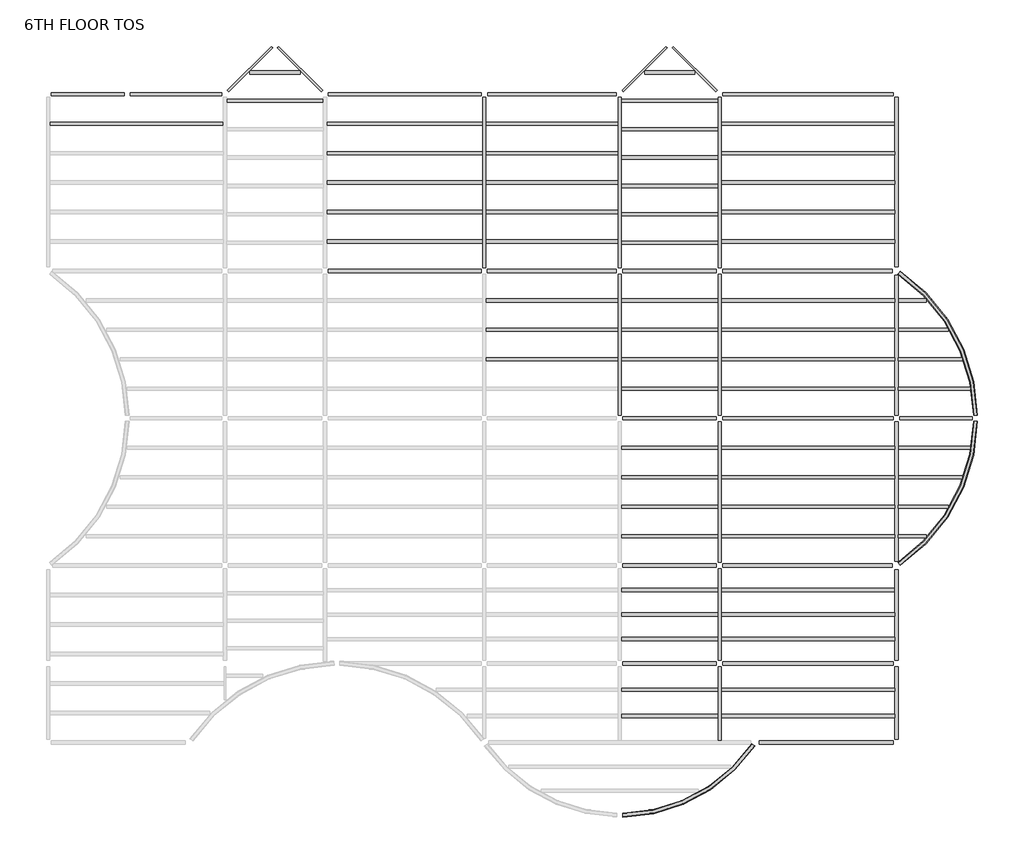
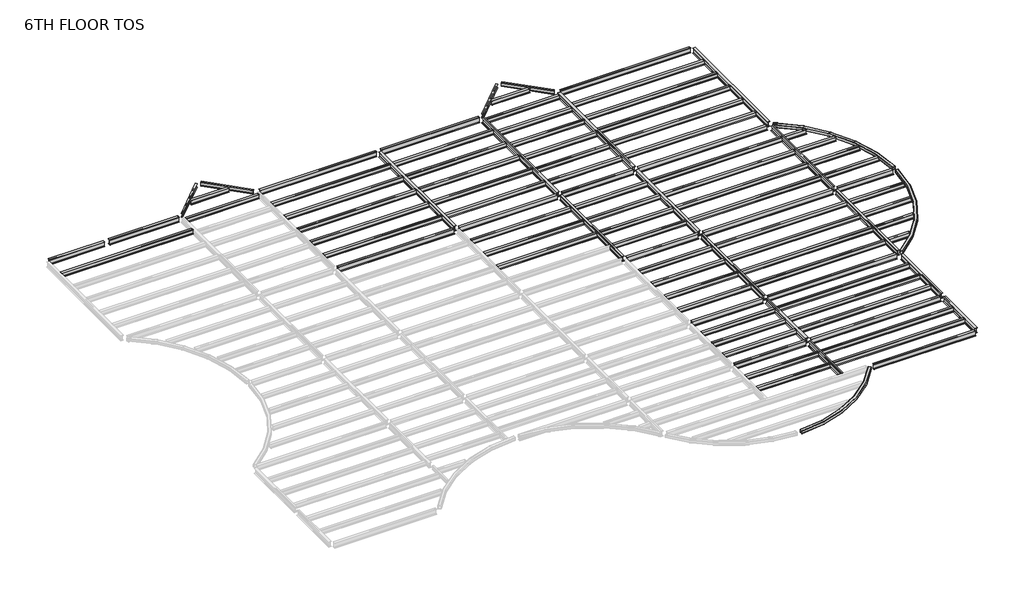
# One storey, part 2 of 2: 99 beams.
"""IFC4 building model written with IfcOpenShell, lengths in millimetres."""

from ifc_helpers import new_model, si_unit, origin, place, context, project, spatial, transform, mapped, element, save
from components import m_hss_square_hss203_2x203_2x9_5_28e91a4e, m_hss_square_hss203_2x203_2x9_5_f31329aa, m_hss_square_hss203_2x203_2x9_5_63507dff, ub_universal_beams_ub254x102x28_7812688d, ub_universal_beams_ub254x102x28_4a38c177, ub_universal_beams_ub305x165x40_c4d0385b, ub_universal_beams_ub305x165x40_19965e16, ub_universal_beams_ub305x165x40_d3abc31d, ub_universal_beams_ub305x165x40_0c73730f, ub_universal_beams_ub305x165x40_2a963f0c, ub_universal_beams_ub305x165x40_9ce7f2ee, ub_universal_beams_ub305x165x40_d184adfd, ub_universal_beams_ub305x165x40_bc7dc938, ub_universal_beams_ub305x165x40_b4233d25, ub_universal_beams_ub356x171x51_c708c058, ub_universal_beams_ub356x171x51_ef72dcdd, ub_universal_beams_ub356x171x51_10b3c54f, ub_universal_beams_ub356x171x51_4c9fd821, ub_universal_beams_ub356x171x51_d1a87c3c, ub_universal_beams_ub356x171x51_fa75724b, ub_universal_beams_ub356x171x51_68db896e, ub_universal_beams_ub356x171x51_c634c4a6, ub_universal_beams_ub356x171x51_995f1560, ub_universal_beams_ub356x171x51_dfc36663, ub_universal_beams_ub356x171x51_11d6b780, ub_universal_beams_ub356x171x51_76b2d20b, ub_universal_beams_ub356x171x51_145ecd4b, ub_universal_beams_ub356x171x51_c7dff8d2, ub_universal_beams_ub356x171x51_8a345439, ub_universal_beams_ub356x171x51_6da510e9, ub_universal_beams_ub356x171x51_e97f8d2e, ub_universal_beams_ub356x171x51_a38b99de, ub_universal_beams_ub356x171x51_d8f4cdde, ub_universal_beams_ub356x171x51_475301e6, ub_universal_beams_ub356x171x51_c03c70fb, ub_universal_beams_ub356x171x51_741bae58

model = new_model("IFC4")

# Units and contexts
model_context = context("Model", 3, world=origin())
ifc_project = project(units=[si_unit("LENGTHUNIT", "METRE", prefix="MILLI")], contexts=[model_context])

# Site, building, storey
site = spatial("IfcSite", under=ifc_project)
building = spatial("IfcBuilding", under=site)
storey = spatial("IfcBuildingStorey", under=building, Name="6TH FLOOR TOS", Elevation=27279.6)

# Beams
placement = place(None, origin())
m_hss_square_hss203_2x203_2x9_5_shape = m_hss_square_hss203_2x203_2x9_5_28e91a4e(model_context)
element("IfcBeam", 1, ObjectType="M_HSS Square : HSS203.2X203.2X9.5", at=placement, inside=storey, context=model_context, shape_type="MappedRepresentation", body=[
    mapped(m_hss_square_hss203_2x203_2x9_5_shape, transform((44027.575, 24539.575, 27178.1), x_axis=(0.8332810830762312, -0.5528495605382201, 0.0), y_axis=(0.5528495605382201, 0.8332810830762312, 0.0), z_axis=(0.0, 0.0, 1.0))),
])
m_hss_square_hss203_2x203_2x9_5_2_shape = m_hss_square_hss203_2x203_2x9_5_f31329aa(model_context)
element("IfcBeam", 2, ObjectType="M_HSS Square : HSS203.2X203.2X9.5", at=placement, inside=storey, context=model_context, shape_type="MappedRepresentation", body=[
    mapped(m_hss_square_hss203_2x203_2x9_5_2_shape, transform((44027.575, 9299.575, 27178.1), x_axis=(0.8332810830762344, 0.5528495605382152, 0.0), y_axis=(-0.5528495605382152, 0.8332810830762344, 0.0), z_axis=(0.0, 0.0, 1.0))),
])
m_hss_square_hss203_2x203_2x9_5_3_shape = m_hss_square_hss203_2x203_2x9_5_63507dff(model_context)
element("IfcBeam", 3, ObjectType="M_HSS Square : HSS203.2X203.2X9.5", at=placement, inside=storey, context=model_context, shape_type="MappedRepresentation", body=[
    mapped(m_hss_square_hss203_2x203_2x9_5_3_shape, transform((36716.575, 155.575, 27178.1), x_axis=(-0.5530174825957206, -0.8331696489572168, 0.0), y_axis=(0.8331696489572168, -0.5530174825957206, 0.0), z_axis=(0.0, 0.0, 1.0))),
])
ub_universal_beams_ub254x102x28_shape = ub_universal_beams_ub254x102x28_7812688d(model_context)
element("IfcBeam", 4, ObjectType="UB-Universal Beams : UB254x102x28", at=placement, inside=storey, context=model_context, shape_type="MappedRepresentation", body=[
    mapped(ub_universal_beams_ub254x102x28_shape, transform((10592.575, 34976.575, 27149.4), x_axis=(0.7071067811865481, 0.7071067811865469, 0.0), y_axis=(-0.7071067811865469, 0.7071067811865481, 0.0), z_axis=(0.0, 0.0, 1.0))),
])
element("IfcBeam", 5, ObjectType="UB-Universal Beams : UB254x102x28", at=placement, inside=storey, context=model_context, shape_type="MappedRepresentation", body=[
    mapped(ub_universal_beams_ub254x102x28_shape, transform((31004.575, 34976.575, 27149.4), x_axis=(0.7071067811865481, 0.7071067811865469, 0.0), y_axis=(-0.7071067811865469, 0.7071067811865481, 0.0), z_axis=(0.0, 0.0, 1.0))),
])
ub_universal_beams_ub254x102x28_2_shape = ub_universal_beams_ub254x102x28_4a38c177(model_context)
element("IfcBeam", 6, ObjectType="UB-Universal Beams : UB254x102x28", at=placement, inside=storey, context=model_context, shape_type="MappedRepresentation", body=[
    mapped(ub_universal_beams_ub254x102x28_2_shape, transform((13178.575, 34976.575, 27149.4), x_axis=(0.707106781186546, -0.707106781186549, 0.0), y_axis=(0.707106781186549, 0.707106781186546, 0.0), z_axis=(0.0, 0.0, 1.0))),
])
element("IfcBeam", 7, ObjectType="UB-Universal Beams : UB254x102x28", at=placement, inside=storey, context=model_context, shape_type="MappedRepresentation", body=[
    mapped(ub_universal_beams_ub254x102x28_2_shape, transform((33590.575, 34976.575, 27149.4), x_axis=(0.7071067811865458, -0.7071067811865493, 0.0), y_axis=(0.7071067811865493, 0.7071067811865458, 0.0), z_axis=(0.0, 0.0, 1.0))),
])
ub_universal_beams_ub305x165x40_shape = ub_universal_beams_ub305x165x40_c4d0385b(model_context)
element("IfcBeam", 8, ObjectType="UB-Universal Beams : UB305x165x40", at=placement, inside=storey, context=model_context, shape_type="MappedRepresentation", body=[
    mapped(ub_universal_beams_ub305x165x40_shape, transform((4727.575, 32159.575, 27127.9), x_axis=(1.0, 0.0, 0.0), y_axis=(0.0, 1.0, 0.0), z_axis=(0.0, 0.0, 1.0))),
])
element("IfcBeam", 9, ObjectType="UB-Universal Beams : UB305x165x40", at=placement, inside=storey, context=model_context, shape_type="MappedRepresentation", body=[
    mapped(ub_universal_beams_ub305x165x40_shape, transform((39455.575, 32159.575, 27127.9), x_axis=(1.0, 0.0, 0.0), y_axis=(0.0, 1.0, 0.0), z_axis=(0.0, 0.0, 1.0))),
])
element("IfcBeam", 10, ObjectType="UB-Universal Beams : UB305x165x40", at=placement, inside=storey, context=model_context, shape_type="MappedRepresentation", body=[
    mapped(ub_universal_beams_ub305x165x40_shape, transform((39455.575, 30635.575, 27127.9), x_axis=(1.0, 0.0, 0.0), y_axis=(0.0, 1.0, 0.0), z_axis=(0.0, 0.0, 1.0))),
])
element("IfcBeam", 11, ObjectType="UB-Universal Beams : UB305x165x40", at=placement, inside=storey, context=model_context, shape_type="MappedRepresentation", body=[
    mapped(ub_universal_beams_ub305x165x40_shape, transform((39455.575, 29111.575, 27127.9), x_axis=(1.0, 0.0, 0.0), y_axis=(0.0, 1.0, 0.0), z_axis=(0.0, 0.0, 1.0))),
])
element("IfcBeam", 12, ObjectType="UB-Universal Beams : UB305x165x40", at=placement, inside=storey, context=model_context, shape_type="MappedRepresentation", body=[
    mapped(ub_universal_beams_ub305x165x40_shape, transform((39455.575, 27587.575, 27127.9), x_axis=(1.0, 0.0, 0.0), y_axis=(0.0, 1.0, 0.0), z_axis=(0.0, 0.0, 1.0))),
])
element("IfcBeam", 13, ObjectType="UB-Universal Beams : UB305x165x40", at=placement, inside=storey, context=model_context, shape_type="MappedRepresentation", body=[
    mapped(ub_universal_beams_ub305x165x40_shape, transform((39455.575, 26063.575, 27127.9), x_axis=(1.0, 0.0, 0.0), y_axis=(0.0, 1.0, 0.0), z_axis=(0.0, 0.0, 1.0))),
])
element("IfcBeam", 14, ObjectType="UB-Universal Beams : UB305x165x40", at=placement, inside=storey, context=model_context, shape_type="MappedRepresentation", body=[
    mapped(ub_universal_beams_ub305x165x40_shape, transform((39455.575, 23015.575, 27127.9), x_axis=(1.0, 0.0, 0.0), y_axis=(0.0, 1.0, 0.0), z_axis=(0.0, 0.0, 1.0))),
])
element("IfcBeam", 15, ObjectType="UB-Universal Beams : UB305x165x40", at=placement, inside=storey, context=model_context, shape_type="MappedRepresentation", body=[
    mapped(ub_universal_beams_ub305x165x40_shape, transform((39455.575, 21491.575, 27127.9), x_axis=(1.0, 0.0, 0.0), y_axis=(0.0, 1.0, 0.0), z_axis=(0.0, 0.0, 1.0))),
])
element("IfcBeam", 16, ObjectType="UB-Universal Beams : UB305x165x40", at=placement, inside=storey, context=model_context, shape_type="MappedRepresentation", body=[
    mapped(ub_universal_beams_ub305x165x40_shape, transform((39455.575, 19967.575, 27127.9), x_axis=(1.0, 0.0, 0.0), y_axis=(0.0, 1.0, 0.0), z_axis=(0.0, 0.0, 1.0))),
])
element("IfcBeam", 17, ObjectType="UB-Universal Beams : UB305x165x40", at=placement, inside=storey, context=model_context, shape_type="MappedRepresentation", body=[
    mapped(ub_universal_beams_ub305x165x40_shape, transform((39455.575, 18443.575, 27127.9), x_axis=(1.0, 0.0, 0.0), y_axis=(0.0, 1.0, 0.0), z_axis=(0.0, 0.0, 1.0))),
])
element("IfcBeam", 18, ObjectType="UB-Universal Beams : UB305x165x40", at=placement, inside=storey, context=model_context, shape_type="MappedRepresentation", body=[
    mapped(ub_universal_beams_ub305x165x40_shape, transform((39455.575, 15395.575, 27127.9), x_axis=(1.0, 0.0, 0.0), y_axis=(0.0, 1.0, 0.0), z_axis=(0.0, 0.0, 1.0))),
])
element("IfcBeam", 19, ObjectType="UB-Universal Beams : UB305x165x40", at=placement, inside=storey, context=model_context, shape_type="MappedRepresentation", body=[
    mapped(ub_universal_beams_ub305x165x40_shape, transform((39455.575, 13871.575, 27127.9), x_axis=(1.0, 0.0, 0.0), y_axis=(0.0, 1.0, 0.0), z_axis=(0.0, 0.0, 1.0))),
])
element("IfcBeam", 20, ObjectType="UB-Universal Beams : UB305x165x40", at=placement, inside=storey, context=model_context, shape_type="MappedRepresentation", body=[
    mapped(ub_universal_beams_ub305x165x40_shape, transform((39455.575, 12347.575, 27127.9), x_axis=(1.0, 0.0, 0.0), y_axis=(0.0, 1.0, 0.0), z_axis=(0.0, 0.0, 1.0))),
])
element("IfcBeam", 21, ObjectType="UB-Universal Beams : UB305x165x40", at=placement, inside=storey, context=model_context, shape_type="MappedRepresentation", body=[
    mapped(ub_universal_beams_ub305x165x40_shape, transform((39455.575, 10823.575, 27127.9), x_axis=(1.0, 0.0, 0.0), y_axis=(0.0, 1.0, 0.0), z_axis=(0.0, 0.0, 1.0))),
])
element("IfcBeam", 22, ObjectType="UB-Universal Beams : UB305x165x40", at=placement, inside=storey, context=model_context, shape_type="MappedRepresentation", body=[
    mapped(ub_universal_beams_ub305x165x40_shape, transform((39455.575, 5508.325, 27127.9), x_axis=(-1.0, 0.0, 0.0), y_axis=(0.0, -1.0, 0.0), z_axis=(0.0, 0.0, 1.0))),
])
element("IfcBeam", 23, ObjectType="UB-Universal Beams : UB305x165x40", at=placement, inside=storey, context=model_context, shape_type="MappedRepresentation", body=[
    mapped(ub_universal_beams_ub305x165x40_shape, transform((39455.575, 6772.075, 27127.9), x_axis=(-1.0, 0.0, 0.0), y_axis=(0.0, -1.0, 0.0), z_axis=(0.0, 0.0, 1.0))),
])
element("IfcBeam", 24, ObjectType="UB-Universal Beams : UB305x165x40", at=placement, inside=storey, context=model_context, shape_type="MappedRepresentation", body=[
    mapped(ub_universal_beams_ub305x165x40_shape, transform((39455.575, 8035.825, 27127.9), x_axis=(-1.0, 0.0, 0.0), y_axis=(0.0, -1.0, 0.0), z_axis=(0.0, 0.0, 1.0))),
])
element("IfcBeam", 25, ObjectType="UB-Universal Beams : UB305x165x40", at=placement, inside=storey, context=model_context, shape_type="MappedRepresentation", body=[
    mapped(ub_universal_beams_ub305x165x40_shape, transform((39455.575, 1518.575, 27127.9), x_axis=(-1.0, 0.0, 0.0), y_axis=(0.0, -1.0, 0.0), z_axis=(0.0, 0.0, 1.0))),
])
element("IfcBeam", 26, ObjectType="UB-Universal Beams : UB305x165x40", at=placement, inside=storey, context=model_context, shape_type="MappedRepresentation", body=[
    mapped(ub_universal_beams_ub305x165x40_shape, transform((39455.575, 2881.575, 27127.9), x_axis=(-1.0, 0.0, 0.0), y_axis=(0.0, -1.0, 0.0), z_axis=(0.0, 0.0, 1.0))),
])
ub_universal_beams_ub305x165x40_2_shape = ub_universal_beams_ub305x165x40_19965e16(model_context)
element("IfcBeam", 27, ObjectType="UB-Universal Beams : UB305x165x40", at=placement, inside=storey, context=model_context, shape_type="MappedRepresentation", body=[
    mapped(ub_universal_beams_ub305x165x40_2_shape, transform((11885.575, 34803.325, 27127.9), x_axis=(1.0, 0.0, 0.0), y_axis=(0.0, 1.0, 0.0), z_axis=(0.0, 0.0, 1.0))),
])
element("IfcBeam", 28, ObjectType="UB-Universal Beams : UB305x165x40", at=placement, inside=storey, context=model_context, shape_type="MappedRepresentation", body=[
    mapped(ub_universal_beams_ub305x165x40_2_shape, transform((32297.575, 34803.325, 27127.9), x_axis=(1.0, 0.0, 0.0), y_axis=(0.0, 1.0, 0.0), z_axis=(0.0, 0.0, 1.0))),
])
ub_universal_beams_ub305x165x40_3_shape = ub_universal_beams_ub305x165x40_d3abc31d(model_context)
element("IfcBeam", 29, ObjectType="UB-Universal Beams : UB305x165x40", at=placement, inside=storey, context=model_context, shape_type="MappedRepresentation", body=[
    mapped(ub_universal_beams_ub305x165x40_3_shape, transform((11885.575, 33337.075, 27127.9), x_axis=(1.0, 0.0, 0.0), y_axis=(0.0, 1.0, 0.0), z_axis=(0.0, 0.0, 1.0))),
])
element("IfcBeam", 30, ObjectType="UB-Universal Beams : UB305x165x40", at=placement, inside=storey, context=model_context, shape_type="MappedRepresentation", body=[
    mapped(ub_universal_beams_ub305x165x40_3_shape, transform((32297.575, 33337.075, 27127.9), x_axis=(1.0, 0.0, 0.0), y_axis=(0.0, 1.0, 0.0), z_axis=(0.0, 0.0, 1.0))),
])
element("IfcBeam", 31, ObjectType="UB-Universal Beams : UB305x165x40", at=placement, inside=storey, context=model_context, shape_type="MappedRepresentation", body=[
    mapped(ub_universal_beams_ub305x165x40_3_shape, transform((32297.575, 31870.825, 27127.9), x_axis=(1.0, 0.0, 0.0), y_axis=(0.0, 1.0, 0.0), z_axis=(0.0, 0.0, 1.0))),
])
element("IfcBeam", 32, ObjectType="UB-Universal Beams : UB305x165x40", at=placement, inside=storey, context=model_context, shape_type="MappedRepresentation", body=[
    mapped(ub_universal_beams_ub305x165x40_3_shape, transform((32297.575, 30404.575, 27127.9), x_axis=(1.0, 0.0, 0.0), y_axis=(0.0, 1.0, 0.0), z_axis=(0.0, 0.0, 1.0))),
])
element("IfcBeam", 33, ObjectType="UB-Universal Beams : UB305x165x40", at=placement, inside=storey, context=model_context, shape_type="MappedRepresentation", body=[
    mapped(ub_universal_beams_ub305x165x40_3_shape, transform((32297.575, 28938.325, 27127.9), x_axis=(1.0, 0.0, 0.0), y_axis=(0.0, 1.0, 0.0), z_axis=(0.0, 0.0, 1.0))),
])
element("IfcBeam", 34, ObjectType="UB-Universal Beams : UB305x165x40", at=placement, inside=storey, context=model_context, shape_type="MappedRepresentation", body=[
    mapped(ub_universal_beams_ub305x165x40_3_shape, transform((32297.575, 27472.075, 27127.9), x_axis=(1.0, 0.0, 0.0), y_axis=(0.0, 1.0, 0.0), z_axis=(0.0, 0.0, 1.0))),
])
element("IfcBeam", 35, ObjectType="UB-Universal Beams : UB305x165x40", at=placement, inside=storey, context=model_context, shape_type="MappedRepresentation", body=[
    mapped(ub_universal_beams_ub305x165x40_3_shape, transform((32297.575, 26005.825, 27127.9), x_axis=(1.0, 0.0, 0.0), y_axis=(0.0, 1.0, 0.0), z_axis=(0.0, 0.0, 1.0))),
])
element("IfcBeam", 36, ObjectType="UB-Universal Beams : UB305x165x40", at=placement, inside=storey, context=model_context, shape_type="MappedRepresentation", body=[
    mapped(ub_universal_beams_ub305x165x40_3_shape, transform((32297.575, 1518.575, 27127.9), x_axis=(-1.0, 0.0, 0.0), y_axis=(0.0, -1.0, 0.0), z_axis=(0.0, 0.0, 1.0))),
])
element("IfcBeam", 37, ObjectType="UB-Universal Beams : UB305x165x40", at=placement, inside=storey, context=model_context, shape_type="MappedRepresentation", body=[
    mapped(ub_universal_beams_ub305x165x40_3_shape, transform((32297.575, 2881.575, 27127.9), x_axis=(-1.0, 0.0, 0.0), y_axis=(0.0, -1.0, 0.0), z_axis=(0.0, 0.0, 1.0))),
])
element("IfcBeam", 38, ObjectType="UB-Universal Beams : UB305x165x40", at=placement, inside=storey, context=model_context, shape_type="MappedRepresentation", body=[
    mapped(ub_universal_beams_ub305x165x40_3_shape, transform((32297.575, 5508.325, 27127.9), x_axis=(-1.0, 0.0, 0.0), y_axis=(0.0, -1.0, 0.0), z_axis=(0.0, 0.0, 1.0))),
])
element("IfcBeam", 39, ObjectType="UB-Universal Beams : UB305x165x40", at=placement, inside=storey, context=model_context, shape_type="MappedRepresentation", body=[
    mapped(ub_universal_beams_ub305x165x40_3_shape, transform((32297.575, 6772.075, 27127.9), x_axis=(-1.0, 0.0, 0.0), y_axis=(0.0, -1.0, 0.0), z_axis=(0.0, 0.0, 1.0))),
])
element("IfcBeam", 40, ObjectType="UB-Universal Beams : UB305x165x40", at=placement, inside=storey, context=model_context, shape_type="MappedRepresentation", body=[
    mapped(ub_universal_beams_ub305x165x40_3_shape, transform((32297.575, 8035.825, 27127.9), x_axis=(-1.0, 0.0, 0.0), y_axis=(0.0, -1.0, 0.0), z_axis=(0.0, 0.0, 1.0))),
])
element("IfcBeam", 41, ObjectType="UB-Universal Beams : UB305x165x40", at=placement, inside=storey, context=model_context, shape_type="MappedRepresentation", body=[
    mapped(ub_universal_beams_ub305x165x40_3_shape, transform((32297.575, 15395.575, 27127.9), x_axis=(1.0, 0.0, 0.0), y_axis=(0.0, 1.0, 0.0), z_axis=(0.0, 0.0, 1.0))),
])
element("IfcBeam", 42, ObjectType="UB-Universal Beams : UB305x165x40", at=placement, inside=storey, context=model_context, shape_type="MappedRepresentation", body=[
    mapped(ub_universal_beams_ub305x165x40_3_shape, transform((32297.575, 13871.575, 27127.9), x_axis=(1.0, 0.0, 0.0), y_axis=(0.0, 1.0, 0.0), z_axis=(0.0, 0.0, 1.0))),
])
element("IfcBeam", 43, ObjectType="UB-Universal Beams : UB305x165x40", at=placement, inside=storey, context=model_context, shape_type="MappedRepresentation", body=[
    mapped(ub_universal_beams_ub305x165x40_3_shape, transform((32297.575, 12347.575, 27127.9), x_axis=(1.0, 0.0, 0.0), y_axis=(0.0, 1.0, 0.0), z_axis=(0.0, 0.0, 1.0))),
])
element("IfcBeam", 44, ObjectType="UB-Universal Beams : UB305x165x40", at=placement, inside=storey, context=model_context, shape_type="MappedRepresentation", body=[
    mapped(ub_universal_beams_ub305x165x40_3_shape, transform((32297.575, 10823.575, 27127.9), x_axis=(1.0, 0.0, 0.0), y_axis=(0.0, 1.0, 0.0), z_axis=(0.0, 0.0, 1.0))),
])
element("IfcBeam", 45, ObjectType="UB-Universal Beams : UB305x165x40", at=placement, inside=storey, context=model_context, shape_type="MappedRepresentation", body=[
    mapped(ub_universal_beams_ub305x165x40_3_shape, transform((32297.575, 23015.575, 27127.9), x_axis=(1.0, 0.0, 0.0), y_axis=(0.0, 1.0, 0.0), z_axis=(0.0, 0.0, 1.0))),
])
element("IfcBeam", 46, ObjectType="UB-Universal Beams : UB305x165x40", at=placement, inside=storey, context=model_context, shape_type="MappedRepresentation", body=[
    mapped(ub_universal_beams_ub305x165x40_3_shape, transform((32297.575, 21491.575, 27127.9), x_axis=(1.0, 0.0, 0.0), y_axis=(0.0, 1.0, 0.0), z_axis=(0.0, 0.0, 1.0))),
])
element("IfcBeam", 47, ObjectType="UB-Universal Beams : UB305x165x40", at=placement, inside=storey, context=model_context, shape_type="MappedRepresentation", body=[
    mapped(ub_universal_beams_ub305x165x40_3_shape, transform((32297.575, 19967.575, 27127.9), x_axis=(1.0, 0.0, 0.0), y_axis=(0.0, 1.0, 0.0), z_axis=(0.0, 0.0, 1.0))),
])
element("IfcBeam", 48, ObjectType="UB-Universal Beams : UB305x165x40", at=placement, inside=storey, context=model_context, shape_type="MappedRepresentation", body=[
    mapped(ub_universal_beams_ub305x165x40_3_shape, transform((32297.575, 18443.575, 27127.9), x_axis=(1.0, 0.0, 0.0), y_axis=(0.0, 1.0, 0.0), z_axis=(0.0, 0.0, 1.0))),
])
ub_universal_beams_ub305x165x40_4_shape = ub_universal_beams_ub305x165x40_0c73730f(model_context)
element("IfcBeam", 49, ObjectType="UB-Universal Beams : UB305x165x40", at=placement, inside=storey, context=model_context, shape_type="MappedRepresentation", body=[
    mapped(ub_universal_beams_ub305x165x40_4_shape, transform((18591.075, 32159.575, 27127.9), x_axis=(1.0, 0.0, 0.0), y_axis=(0.0, 1.0, 0.0), z_axis=(0.0, 0.0, 1.0))),
])
element("IfcBeam", 50, ObjectType="UB-Universal Beams : UB305x165x40", at=placement, inside=storey, context=model_context, shape_type="MappedRepresentation", body=[
    mapped(ub_universal_beams_ub305x165x40_4_shape, transform((18591.075, 30635.575, 27127.9), x_axis=(1.0, 0.0, 0.0), y_axis=(0.0, 1.0, 0.0), z_axis=(0.0, 0.0, 1.0))),
])
element("IfcBeam", 51, ObjectType="UB-Universal Beams : UB305x165x40", at=placement, inside=storey, context=model_context, shape_type="MappedRepresentation", body=[
    mapped(ub_universal_beams_ub305x165x40_4_shape, transform((18591.075, 29111.575, 27127.9), x_axis=(1.0, 0.0, 0.0), y_axis=(0.0, 1.0, 0.0), z_axis=(0.0, 0.0, 1.0))),
])
element("IfcBeam", 52, ObjectType="UB-Universal Beams : UB305x165x40", at=placement, inside=storey, context=model_context, shape_type="MappedRepresentation", body=[
    mapped(ub_universal_beams_ub305x165x40_4_shape, transform((18591.075, 27587.575, 27127.9), x_axis=(1.0, 0.0, 0.0), y_axis=(0.0, 1.0, 0.0), z_axis=(0.0, 0.0, 1.0))),
])
element("IfcBeam", 53, ObjectType="UB-Universal Beams : UB305x165x40", at=placement, inside=storey, context=model_context, shape_type="MappedRepresentation", body=[
    mapped(ub_universal_beams_ub305x165x40_4_shape, transform((18591.075, 26063.575, 27127.9), x_axis=(1.0, 0.0, 0.0), y_axis=(0.0, 1.0, 0.0), z_axis=(0.0, 0.0, 1.0))),
])
ub_universal_beams_ub305x165x40_5_shape = ub_universal_beams_ub305x165x40_2a963f0c(model_context)
element("IfcBeam", 54, ObjectType="UB-Universal Beams : UB305x165x40", at=placement, inside=storey, context=model_context, shape_type="MappedRepresentation", body=[
    mapped(ub_universal_beams_ub305x165x40_5_shape, transform((26211.075, 32159.575, 27127.9), x_axis=(1.0, 0.0, 0.0), y_axis=(0.0, 1.0, 0.0), z_axis=(0.0, 0.0, 1.0))),
])
element("IfcBeam", 55, ObjectType="UB-Universal Beams : UB305x165x40", at=placement, inside=storey, context=model_context, shape_type="MappedRepresentation", body=[
    mapped(ub_universal_beams_ub305x165x40_5_shape, transform((26211.075, 30635.575, 27127.9), x_axis=(1.0, 0.0, 0.0), y_axis=(0.0, 1.0, 0.0), z_axis=(0.0, 0.0, 1.0))),
])
element("IfcBeam", 56, ObjectType="UB-Universal Beams : UB305x165x40", at=placement, inside=storey, context=model_context, shape_type="MappedRepresentation", body=[
    mapped(ub_universal_beams_ub305x165x40_5_shape, transform((26211.075, 29111.575, 27127.9), x_axis=(1.0, 0.0, 0.0), y_axis=(0.0, 1.0, 0.0), z_axis=(0.0, 0.0, 1.0))),
])
element("IfcBeam", 57, ObjectType="UB-Universal Beams : UB305x165x40", at=placement, inside=storey, context=model_context, shape_type="MappedRepresentation", body=[
    mapped(ub_universal_beams_ub305x165x40_5_shape, transform((26211.075, 27587.575, 27127.9), x_axis=(1.0, 0.0, 0.0), y_axis=(0.0, 1.0, 0.0), z_axis=(0.0, 0.0, 1.0))),
])
element("IfcBeam", 58, ObjectType="UB-Universal Beams : UB305x165x40", at=placement, inside=storey, context=model_context, shape_type="MappedRepresentation", body=[
    mapped(ub_universal_beams_ub305x165x40_5_shape, transform((26211.075, 26063.575, 27127.9), x_axis=(1.0, 0.0, 0.0), y_axis=(0.0, 1.0, 0.0), z_axis=(0.0, 0.0, 1.0))),
])
element("IfcBeam", 59, ObjectType="UB-Universal Beams : UB305x165x40", at=placement, inside=storey, context=model_context, shape_type="MappedRepresentation", body=[
    mapped(ub_universal_beams_ub305x165x40_5_shape, transform((26211.075, 23015.575, 27127.9), x_axis=(1.0, 0.0, 0.0), y_axis=(0.0, 1.0, 0.0), z_axis=(0.0, 0.0, 1.0))),
])
element("IfcBeam", 60, ObjectType="UB-Universal Beams : UB305x165x40", at=placement, inside=storey, context=model_context, shape_type="MappedRepresentation", body=[
    mapped(ub_universal_beams_ub305x165x40_5_shape, transform((26211.075, 21491.575, 27127.9), x_axis=(1.0, 0.0, 0.0), y_axis=(0.0, 1.0, 0.0), z_axis=(0.0, 0.0, 1.0))),
])
element("IfcBeam", 61, ObjectType="UB-Universal Beams : UB305x165x40", at=placement, inside=storey, context=model_context, shape_type="MappedRepresentation", body=[
    mapped(ub_universal_beams_ub305x165x40_5_shape, transform((26211.075, 19967.575, 27127.9), x_axis=(1.0, 0.0, 0.0), y_axis=(0.0, 1.0, 0.0), z_axis=(0.0, 0.0, 1.0))),
])
ub_universal_beams_ub305x165x40_6_shape = ub_universal_beams_ub305x165x40_9ce7f2ee(model_context)
element("IfcBeam", 62, ObjectType="UB-Universal Beams : UB305x165x40", at=placement, inside=storey, context=model_context, shape_type="MappedRepresentation", body=[
    mapped(ub_universal_beams_ub305x165x40_6_shape, transform((44907.9405309, 23015.575, 27127.9), x_axis=(1.0, 0.0, 0.0), y_axis=(0.0, 1.0, 0.0), z_axis=(0.0, 0.0, 1.0))),
])
element("IfcBeam", 63, ObjectType="UB-Universal Beams : UB305x165x40", at=placement, inside=storey, context=model_context, shape_type="MappedRepresentation", body=[
    mapped(ub_universal_beams_ub305x165x40_6_shape, transform((44907.9405309, 10823.575, 27127.9), x_axis=(1.0, 0.0, 0.0), y_axis=(0.0, 1.0, 0.0), z_axis=(0.0, 0.0, 1.0))),
])
ub_universal_beams_ub305x165x40_7_shape = ub_universal_beams_ub305x165x40_d184adfd(model_context)
element("IfcBeam", 64, ObjectType="UB-Universal Beams : UB305x165x40", at=placement, inside=storey, context=model_context, shape_type="MappedRepresentation", body=[
    mapped(ub_universal_beams_ub305x165x40_7_shape, transform((45459.5874928, 21491.575, 27127.9), x_axis=(1.0, 0.0, 0.0), y_axis=(0.0, 1.0, 0.0), z_axis=(0.0, 0.0, 1.0))),
])
element("IfcBeam", 65, ObjectType="UB-Universal Beams : UB305x165x40", at=placement, inside=storey, context=model_context, shape_type="MappedRepresentation", body=[
    mapped(ub_universal_beams_ub305x165x40_7_shape, transform((45459.5874928, 12347.575, 27127.9), x_axis=(1.0, 0.0, 0.0), y_axis=(0.0, 1.0, 0.0), z_axis=(0.0, 0.0, 1.0))),
])
ub_universal_beams_ub305x165x40_8_shape = ub_universal_beams_ub305x165x40_bc7dc938(model_context)
element("IfcBeam", 66, ObjectType="UB-Universal Beams : UB305x165x40", at=placement, inside=storey, context=model_context, shape_type="MappedRepresentation", body=[
    mapped(ub_universal_beams_ub305x165x40_8_shape, transform((45810.6153272, 19967.575, 27127.9), x_axis=(1.0, 0.0, 0.0), y_axis=(0.0, 1.0, 0.0), z_axis=(0.0, 0.0, 1.0))),
])
element("IfcBeam", 67, ObjectType="UB-Universal Beams : UB305x165x40", at=placement, inside=storey, context=model_context, shape_type="MappedRepresentation", body=[
    mapped(ub_universal_beams_ub305x165x40_8_shape, transform((45810.6153272, 13871.575, 27127.9), x_axis=(1.0, 0.0, 0.0), y_axis=(0.0, 1.0, 0.0), z_axis=(0.0, 0.0, 1.0))),
])
ub_universal_beams_ub305x165x40_9_shape = ub_universal_beams_ub305x165x40_b4233d25(model_context)
element("IfcBeam", 68, ObjectType="UB-Universal Beams : UB305x165x40", at=placement, inside=storey, context=model_context, shape_type="MappedRepresentation", body=[
    mapped(ub_universal_beams_ub305x165x40_9_shape, transform((46008.1318611, 18443.575, 27127.9), x_axis=(1.0, 0.0, 0.0), y_axis=(0.0, 1.0, 0.0), z_axis=(0.0, 0.0, 1.0))),
])
element("IfcBeam", 69, ObjectType="UB-Universal Beams : UB305x165x40", at=placement, inside=storey, context=model_context, shape_type="MappedRepresentation", body=[
    mapped(ub_universal_beams_ub305x165x40_9_shape, transform((46008.1318611, 15395.575, 27127.9), x_axis=(1.0, 0.0, 0.0), y_axis=(0.0, 1.0, 0.0), z_axis=(0.0, 0.0, 1.0))),
])
ub_universal_beams_ub356x171x51_shape = ub_universal_beams_ub356x171x51_c708c058(model_context)
element("IfcBeam", 70, ObjectType="UB-Universal Beams : UB356x171x51", at=placement, inside=storey, context=model_context, shape_type="MappedRepresentation", body=[
    mapped(ub_universal_beams_ub356x171x51_shape, transform((2200.075, 33683.575, 27102.1), x_axis=(1.0, 0.0, 0.0), y_axis=(0.0, 1.0, 0.0), z_axis=(0.0, 0.0, 1.0))),
])
ub_universal_beams_ub356x171x51_2_shape = ub_universal_beams_ub356x171x51_ef72dcdd(model_context)
element("IfcBeam", 71, ObjectType="UB-Universal Beams : UB356x171x51", at=placement, inside=storey, context=model_context, shape_type="MappedRepresentation", body=[
    mapped(ub_universal_beams_ub356x171x51_2_shape, transform((6772.075, 33683.575, 27102.1), x_axis=(1.0, 0.0, 0.0), y_axis=(0.0, 1.0, 0.0), z_axis=(0.0, 0.0, 1.0))),
])
element("IfcBeam", 72, ObjectType="UB-Universal Beams : UB356x171x51", at=placement, inside=storey, context=model_context, shape_type="MappedRepresentation", body=[
    mapped(ub_universal_beams_ub356x171x51_2_shape, transform((34883.575, 6772.075, 27102.1), x_axis=(0.0, -1.0, 0.0), y_axis=(1.0, 0.0, 0.0), z_axis=(0.0, 0.0, 1.0))),
])
ub_universal_beams_ub356x171x51_3_shape = ub_universal_beams_ub356x171x51_10b3c54f(model_context)
element("IfcBeam", 73, ObjectType="UB-Universal Beams : UB356x171x51", at=placement, inside=storey, context=model_context, shape_type="MappedRepresentation", body=[
    mapped(ub_universal_beams_ub356x171x51_3_shape, transform((18591.075, 33683.575, 27102.1), x_axis=(1.0, 0.0, 0.0), y_axis=(0.0, 1.0, 0.0), z_axis=(0.0, 0.0, 1.0))),
])
ub_universal_beams_ub356x171x51_4_shape = ub_universal_beams_ub356x171x51_4c9fd821(model_context)
element("IfcBeam", 74, ObjectType="UB-Universal Beams : UB356x171x51", at=placement, inside=storey, context=model_context, shape_type="MappedRepresentation", body=[
    mapped(ub_universal_beams_ub356x171x51_4_shape, transform((26211.075, 33683.575, 27102.1), x_axis=(1.0, 0.0, 0.0), y_axis=(0.0, 1.0, 0.0), z_axis=(0.0, 0.0, 1.0))),
])
ub_universal_beams_ub356x171x51_5_shape = ub_universal_beams_ub356x171x51_d1a87c3c(model_context)
element("IfcBeam", 75, ObjectType="UB-Universal Beams : UB356x171x51", at=placement, inside=storey, context=model_context, shape_type="MappedRepresentation", body=[
    mapped(ub_universal_beams_ub356x171x51_5_shape, transform((39455.575, 33683.575, 27102.1), x_axis=(1.0, 0.0, 0.0), y_axis=(0.0, 1.0, 0.0), z_axis=(0.0, 0.0, 1.0))),
])
ub_universal_beams_ub356x171x51_6_shape = ub_universal_beams_ub356x171x51_fa75724b(model_context)
element("IfcBeam", 76, ObjectType="UB-Universal Beams : UB356x171x51", at=placement, inside=storey, context=model_context, shape_type="MappedRepresentation", body=[
    mapped(ub_universal_beams_ub356x171x51_6_shape, transform((44027.575, 29111.575, 27102.1), x_axis=(0.0, -1.0, 0.0), y_axis=(1.0, 0.0, 0.0), z_axis=(0.0, 0.0, 1.0))),
])
ub_universal_beams_ub356x171x51_7_shape = ub_universal_beams_ub356x171x51_68db896e(model_context)
element("IfcBeam", 77, ObjectType="UB-Universal Beams : UB356x171x51", at=placement, inside=storey, context=model_context, shape_type="MappedRepresentation", body=[
    mapped(ub_universal_beams_ub356x171x51_7_shape, transform((44027.575, 6772.075, 27102.1), x_axis=(0.0, -1.0, 0.0), y_axis=(1.0, 0.0, 0.0), z_axis=(0.0, 0.0, 1.0))),
])
ub_universal_beams_ub356x171x51_8_shape = ub_universal_beams_ub356x171x51_c634c4a6(model_context)
element("IfcBeam", 78, ObjectType="UB-Universal Beams : UB356x171x51", at=placement, inside=storey, context=model_context, shape_type="MappedRepresentation", body=[
    mapped(ub_universal_beams_ub356x171x51_8_shape, transform((44027.575, 2200.075, 27102.1), x_axis=(0.0, -1.0, 0.0), y_axis=(1.0, 0.0, 0.0), z_axis=(0.0, 0.0, 1.0))),
])
ub_universal_beams_ub356x171x51_9_shape = ub_universal_beams_ub356x171x51_995f1560(model_context)
element("IfcBeam", 79, ObjectType="UB-Universal Beams : UB356x171x51", at=placement, inside=storey, context=model_context, shape_type="MappedRepresentation", body=[
    mapped(ub_universal_beams_ub356x171x51_9_shape, transform((40372.075, 155.575, 27102.1), x_axis=(-1.0, 0.0, 0.0), y_axis=(0.0, -1.0, 0.0), z_axis=(0.0, 0.0, 1.0))),
])
ub_universal_beams_ub356x171x51_10_shape = ub_universal_beams_ub356x171x51_dfc36663(model_context)
element("IfcBeam", 80, ObjectType="UB-Universal Beams : UB356x171x51", at=placement, inside=storey, context=model_context, shape_type="MappedRepresentation", body=[
    mapped(ub_universal_beams_ub356x171x51_10_shape, transform((46072.075, 16919.575, 27102.1), x_axis=(1.0, 0.0, 0.0), y_axis=(0.0, 1.0, 0.0), z_axis=(0.0, 0.0, 1.0))),
])
ub_universal_beams_ub356x171x51_11_shape = ub_universal_beams_ub356x171x51_11d6b780(model_context)
element("IfcBeam", 81, ObjectType="UB-Universal Beams : UB356x171x51", at=placement, inside=storey, context=model_context, shape_type="MappedRepresentation", body=[
    mapped(ub_universal_beams_ub356x171x51_11_shape, transform((32297.575, 24539.575, 27102.1), x_axis=(1.0, 0.0, 0.0), y_axis=(0.0, 1.0, 0.0), z_axis=(0.0, 0.0, 1.0))),
])
element("IfcBeam", 82, ObjectType="UB-Universal Beams : UB356x171x51", at=placement, inside=storey, context=model_context, shape_type="MappedRepresentation", body=[
    mapped(ub_universal_beams_ub356x171x51_11_shape, transform((32297.575, 9299.575, 27102.1), x_axis=(-1.0, 0.0, 0.0), y_axis=(0.0, -1.0, 0.0), z_axis=(0.0, 0.0, 1.0))),
])
element("IfcBeam", 83, ObjectType="UB-Universal Beams : UB356x171x51", at=placement, inside=storey, context=model_context, shape_type="MappedRepresentation", body=[
    mapped(ub_universal_beams_ub356x171x51_11_shape, transform((32297.575, 16919.575, 27102.1), x_axis=(1.0, 0.0, 0.0), y_axis=(0.0, 1.0, 0.0), z_axis=(0.0, 0.0, 1.0))),
])
element("IfcBeam", 84, ObjectType="UB-Universal Beams : UB356x171x51", at=placement, inside=storey, context=model_context, shape_type="MappedRepresentation", body=[
    mapped(ub_universal_beams_ub356x171x51_11_shape, transform((32297.575, 4244.575, 27102.1), x_axis=(-1.0, 0.0, 0.0), y_axis=(0.0, -1.0, 0.0), z_axis=(0.0, 0.0, 1.0))),
])
ub_universal_beams_ub356x171x51_12_shape = ub_universal_beams_ub356x171x51_76b2d20b(model_context)
element("IfcBeam", 85, ObjectType="UB-Universal Beams : UB356x171x51", at=placement, inside=storey, context=model_context, shape_type="MappedRepresentation", body=[
    mapped(ub_universal_beams_ub356x171x51_12_shape, transform((18591.075, 24539.575, 27102.1), x_axis=(1.0, 0.0, 0.0), y_axis=(0.0, 1.0, 0.0), z_axis=(0.0, 0.0, 1.0))),
])
ub_universal_beams_ub356x171x51_13_shape = ub_universal_beams_ub356x171x51_145ecd4b(model_context)
element("IfcBeam", 86, ObjectType="UB-Universal Beams : UB356x171x51", at=placement, inside=storey, context=model_context, shape_type="MappedRepresentation", body=[
    mapped(ub_universal_beams_ub356x171x51_13_shape, transform((26211.075, 24539.575, 27102.1), x_axis=(1.0, 0.0, 0.0), y_axis=(0.0, 1.0, 0.0), z_axis=(0.0, 0.0, 1.0))),
])
ub_universal_beams_ub356x171x51_14_shape = ub_universal_beams_ub356x171x51_c7dff8d2(model_context)
element("IfcBeam", 87, ObjectType="UB-Universal Beams : UB356x171x51", at=placement, inside=storey, context=model_context, shape_type="MappedRepresentation", body=[
    mapped(ub_universal_beams_ub356x171x51_14_shape, transform((39455.575, 24539.575, 27102.1), x_axis=(1.0, 0.0, 0.0), y_axis=(0.0, 1.0, 0.0), z_axis=(0.0, 0.0, 1.0))),
])
ub_universal_beams_ub356x171x51_15_shape = ub_universal_beams_ub356x171x51_8a345439(model_context)
element("IfcBeam", 88, ObjectType="UB-Universal Beams : UB356x171x51", at=placement, inside=storey, context=model_context, shape_type="MappedRepresentation", body=[
    mapped(ub_universal_beams_ub356x171x51_15_shape, transform((44027.575, 20729.575, 27102.1), x_axis=(0.0, -1.0, 0.0), y_axis=(1.0, 0.0, 0.0), z_axis=(0.0, 0.0, 1.0))),
])
ub_universal_beams_ub356x171x51_16_shape = ub_universal_beams_ub356x171x51_6da510e9(model_context)
element("IfcBeam", 89, ObjectType="UB-Universal Beams : UB356x171x51", at=placement, inside=storey, context=model_context, shape_type="MappedRepresentation", body=[
    mapped(ub_universal_beams_ub356x171x51_16_shape, transform((44027.575, 13109.575, 27102.1), x_axis=(0.0, -1.0, 0.0), y_axis=(1.0, 0.0, 0.0), z_axis=(0.0, 0.0, 1.0))),
])
ub_universal_beams_ub356x171x51_17_shape = ub_universal_beams_ub356x171x51_e97f8d2e(model_context)
element("IfcBeam", 90, ObjectType="UB-Universal Beams : UB356x171x51", at=placement, inside=storey, context=model_context, shape_type="MappedRepresentation", body=[
    mapped(ub_universal_beams_ub356x171x51_17_shape, transform((39455.575, 9299.575, 27102.1), x_axis=(-1.0, 0.0, 0.0), y_axis=(0.0, -1.0, 0.0), z_axis=(0.0, 0.0, 1.0))),
])
ub_universal_beams_ub356x171x51_18_shape = ub_universal_beams_ub356x171x51_a38b99de(model_context)
element("IfcBeam", 91, ObjectType="UB-Universal Beams : UB356x171x51", at=placement, inside=storey, context=model_context, shape_type="MappedRepresentation", body=[
    mapped(ub_universal_beams_ub356x171x51_18_shape, transform((34883.575, 20729.575, 27102.1), x_axis=(0.0, -1.0, 0.0), y_axis=(1.0, 0.0, 0.0), z_axis=(0.0, 0.0, 1.0))),
])
element("IfcBeam", 92, ObjectType="UB-Universal Beams : UB356x171x51", at=placement, inside=storey, context=model_context, shape_type="MappedRepresentation", body=[
    mapped(ub_universal_beams_ub356x171x51_18_shape, transform((34883.575, 13109.575, 27102.1), x_axis=(0.0, -1.0, 0.0), y_axis=(1.0, 0.0, 0.0), z_axis=(0.0, 0.0, 1.0))),
])
element("IfcBeam", 93, ObjectType="UB-Universal Beams : UB356x171x51", at=placement, inside=storey, context=model_context, shape_type="MappedRepresentation", body=[
    mapped(ub_universal_beams_ub356x171x51_18_shape, transform((29711.575, 20729.575, 27102.1), x_axis=(0.0, 1.0, 0.0), y_axis=(-1.0, 0.0, 0.0), z_axis=(0.0, 0.0, 1.0))),
])
ub_universal_beams_ub356x171x51_19_shape = ub_universal_beams_ub356x171x51_d8f4cdde(model_context)
element("IfcBeam", 94, ObjectType="UB-Universal Beams : UB356x171x51", at=placement, inside=storey, context=model_context, shape_type="MappedRepresentation", body=[
    mapped(ub_universal_beams_ub356x171x51_19_shape, transform((29711.575, 29111.575, 27102.1), x_axis=(0.0, 1.0, 0.0), y_axis=(-1.0, 0.0, 0.0), z_axis=(0.0, 0.0, 1.0))),
])
ub_universal_beams_ub356x171x51_20_shape = ub_universal_beams_ub356x171x51_475301e6(model_context)
element("IfcBeam", 95, ObjectType="UB-Universal Beams : UB356x171x51", at=placement, inside=storey, context=model_context, shape_type="MappedRepresentation", body=[
    mapped(ub_universal_beams_ub356x171x51_20_shape, transform((39455.575, 16919.575, 27102.1), x_axis=(1.0, 0.0, 0.0), y_axis=(0.0, 1.0, 0.0), z_axis=(0.0, 0.0, 1.0))),
])
element("IfcBeam", 96, ObjectType="UB-Universal Beams : UB356x171x51", at=placement, inside=storey, context=model_context, shape_type="MappedRepresentation", body=[
    mapped(ub_universal_beams_ub356x171x51_20_shape, transform((39455.575, 4244.575, 27102.1), x_axis=(-1.0, 0.0, 0.0), y_axis=(0.0, -1.0, 0.0), z_axis=(0.0, 0.0, 1.0))),
])
ub_universal_beams_ub356x171x51_21_shape = ub_universal_beams_ub356x171x51_c03c70fb(model_context)
element("IfcBeam", 97, ObjectType="UB-Universal Beams : UB356x171x51", at=placement, inside=storey, context=model_context, shape_type="MappedRepresentation", body=[
    mapped(ub_universal_beams_ub356x171x51_21_shape, transform((34883.575, 29111.575, 27102.1), x_axis=(0.0, -1.0, 0.0), y_axis=(1.0, 0.0, 0.0), z_axis=(0.0, 0.0, 1.0))),
])
element("IfcBeam", 98, ObjectType="UB-Universal Beams : UB356x171x51", at=placement, inside=storey, context=model_context, shape_type="MappedRepresentation", body=[
    mapped(ub_universal_beams_ub356x171x51_21_shape, transform((22710.575, 29111.575, 27102.1), x_axis=(0.0, -1.0, 0.0), y_axis=(1.0, 0.0, 0.0), z_axis=(0.0, 0.0, 1.0))),
])
ub_universal_beams_ub356x171x51_22_shape = ub_universal_beams_ub356x171x51_741bae58(model_context)
element("IfcBeam", 99, ObjectType="UB-Universal Beams : UB356x171x51", at=placement, inside=storey, context=model_context, shape_type="MappedRepresentation", body=[
    mapped(ub_universal_beams_ub356x171x51_22_shape, transform((34883.575, 2200.075, 27102.1), x_axis=(0.0, -1.0, 0.0), y_axis=(1.0, 0.0, 0.0), z_axis=(0.0, 0.0, 1.0))),
])

save(model, "model.ifc")
